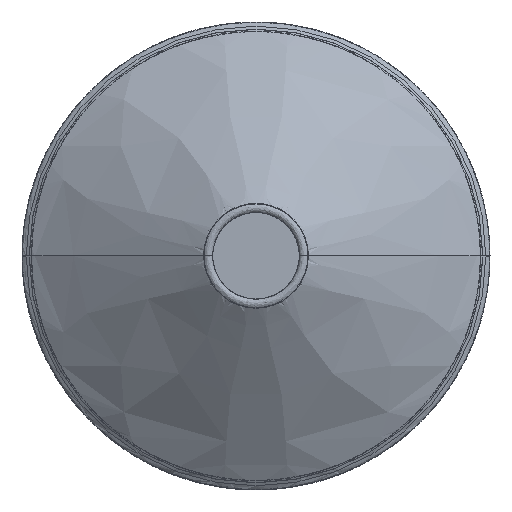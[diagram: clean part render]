
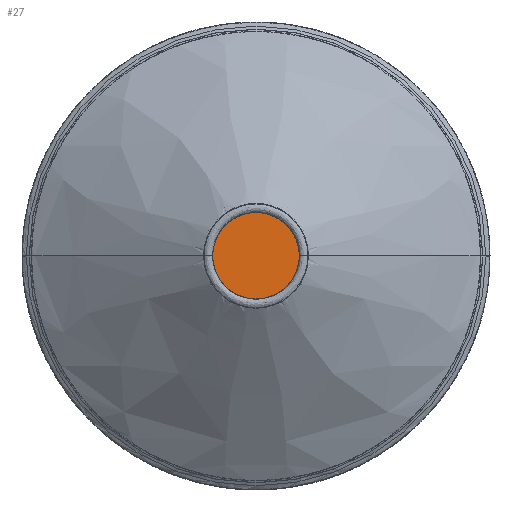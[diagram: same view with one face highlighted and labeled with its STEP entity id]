
A CAD part, top view. The second image highlights one B-rep face of the part: STEP entity #27.
In plain terms, the highlighted planar face has unit normal (0, 0, 1).
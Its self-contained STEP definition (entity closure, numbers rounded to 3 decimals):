
#27=ADVANCED_FACE('',(#45),#280,.T.);
#45=FACE_OUTER_BOUND('',#63,.T.);
#63=EDGE_LOOP('',(#92,#93));
#92=ORIENTED_EDGE('',*,*,#151,.T.);
#93=ORIENTED_EDGE('',*,*,#163,.T.);
#151=EDGE_CURVE('',#256,#263,#204,.T.);
#163=EDGE_CURVE('',#263,#256,#211,.T.);
#204=TRIMMED_CURVE($,#230,(#780),(#781),.T.,.CARTESIAN.);
#211=TRIMMED_CURVE($,#237,(#844),(#845),.T.,.CARTESIAN.);
#230=CIRCLE('',#396,25.497);
#237=CIRCLE('',#403,25.497);
#256=VERTEX_POINT('',#759);
#263=VERTEX_POINT('',#766);
#280=PLANE('',#388);
#388=AXIS2_PLACEMENT_3D('',#556,#426,$);
#396=AXIS2_PLACEMENT_3D($,#779,#436,#437);
#403=AXIS2_PLACEMENT_3D($,#843,#450,#451);
#426=DIRECTION('',(0.,0.,1.));
#436=DIRECTION('',(0.,0.,1.));
#437=DIRECTION('',(1.,0.,0.));
#450=DIRECTION('',(0.,0.,1.));
#451=DIRECTION('',(-1.,0.,0.));
#556=CARTESIAN_POINT('',(-26.011,-26.011,1261.46));
#759=CARTESIAN_POINT('',(25.497,-0.004,1261.46));
#766=CARTESIAN_POINT('',(-25.497,0.004,1261.46));
#779=CARTESIAN_POINT('',(0.,0.,1261.46));
#780=CARTESIAN_POINT('',(25.497,-0.004,1261.46));
#781=CARTESIAN_POINT('',(-25.497,0.004,1261.46));
#843=CARTESIAN_POINT('',(0.,0.,1261.46));
#844=CARTESIAN_POINT('',(-25.497,0.004,1261.46));
#845=CARTESIAN_POINT('',(25.497,-0.004,1261.46));
